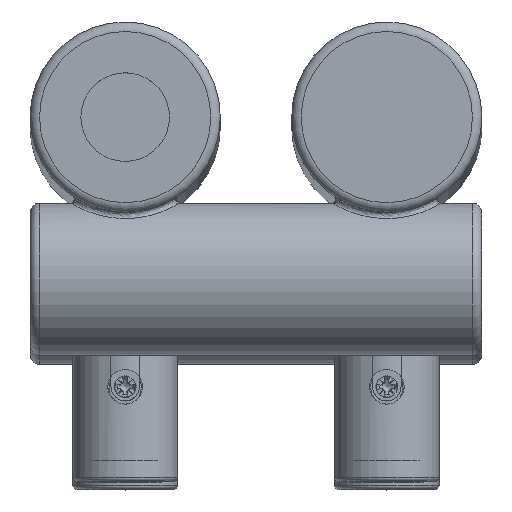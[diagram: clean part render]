
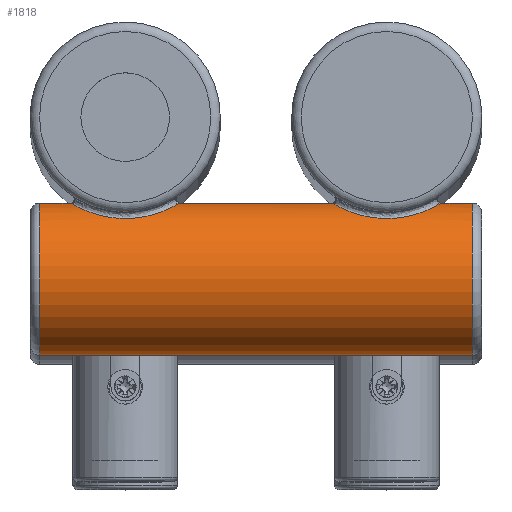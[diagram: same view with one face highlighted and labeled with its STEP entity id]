
A CAD part, top view. The second image highlights one B-rep face of the part: STEP entity #1818.
In plain terms, the highlighted cylindrical face has radius 16 mm (diameter 32 mm), a full revolution.
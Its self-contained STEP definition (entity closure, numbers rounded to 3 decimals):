
#157=FACE_BOUND('',#479,.T.);
#158=FACE_BOUND('',#480,.T.);
#177=LINE('',#3570,#249);
#249=VECTOR('',#2274,16.);
#321=CYLINDRICAL_SURFACE('',#1989,16.);
#353=FACE_OUTER_BOUND('',#478,.T.);
#478=EDGE_LOOP('',(#1288,#1289,#1290,#1291));
#479=EDGE_LOOP('',(#1292));
#480=EDGE_LOOP('',(#1293));
#614=B_SPLINE_CURVE_WITH_KNOTS('',3,(#3545,#3546,#3547,#3548,#3549,#3550,
#3551,#3552,#3553,#3554,#3555,#3556,#3557,#3558,#3559,#3560,#3561,#3562,
#3563,#3564,#3565),.UNSPECIFIED.,.T.,.F.,(4,1,1,1,1,1,1,1,1,1,1,1,1,1,1,
1,1,1,4),(0.,0.367,0.733,0.916,1.1,
1.466,1.711,1.955,2.199,2.444,
2.688,2.933,3.177,3.421,3.666,
3.91,4.399,4.765,5.132),
 .UNSPECIFIED.);
#615=B_SPLINE_CURVE_WITH_KNOTS('',3,(#3573,#3574,#3575,#3576,#3577,#3578,
#3579,#3580,#3581,#3582,#3583,#3584,#3585,#3586,#3587,#3588,#3589,#3590,
#3591,#3592,#3593),.UNSPECIFIED.,.T.,.F.,(4,1,1,1,1,1,1,1,1,1,1,1,1,1,1,
1,1,1,4),(0.,0.367,0.733,0.916,1.1,
1.466,1.711,1.955,2.199,2.444,
2.688,2.933,3.177,3.421,3.666,
3.91,4.399,4.765,5.132),
 .UNSPECIFIED.);
#660=CIRCLE('',#1990,16.);
#661=CIRCLE('',#1991,16.);
#802=VERTEX_POINT('',#3543);
#803=VERTEX_POINT('',#3567);
#804=VERTEX_POINT('',#3569);
#805=VERTEX_POINT('',#3572);
#998=EDGE_CURVE('',#802,#802,#614,.T.);
#999=EDGE_CURVE('',#803,#803,#660,.T.);
#1000=EDGE_CURVE('',#803,#804,#177,.T.);
#1001=EDGE_CURVE('',#804,#804,#661,.T.);
#1002=EDGE_CURVE('',#805,#805,#615,.T.);
#1288=ORIENTED_EDGE('',*,*,#999,.F.);
#1289=ORIENTED_EDGE('',*,*,#1000,.T.);
#1290=ORIENTED_EDGE('',*,*,#1001,.F.);
#1291=ORIENTED_EDGE('',*,*,#1000,.F.);
#1292=ORIENTED_EDGE('',*,*,#1002,.F.);
#1293=ORIENTED_EDGE('',*,*,#998,.F.);
#1818=ADVANCED_FACE('',(#353,#157,#158),#321,.T.);
#1989=AXIS2_PLACEMENT_3D('',#3566,#2270,#2271);
#1990=AXIS2_PLACEMENT_3D('',#3568,#2272,#2273);
#1991=AXIS2_PLACEMENT_3D('',#3571,#2275,#2276);
#2270=DIRECTION('center_axis',(-1.,0.,0.));
#2271=DIRECTION('ref_axis',(0.,0.,1.));
#2272=DIRECTION('center_axis',(-1.,0.,0.));
#2273=DIRECTION('ref_axis',(0.,0.,1.));
#2274=DIRECTION('',(1.,0.,0.));
#2275=DIRECTION('center_axis',(1.,0.,0.));
#2276=DIRECTION('ref_axis',(0.,0.,1.));
#3543=CARTESIAN_POINT('',(-55.,-21.257,1169.676));
#3545=CARTESIAN_POINT('Ctrl Pts',(-55.,-21.257,1169.676));
#3546=CARTESIAN_POINT('Ctrl Pts',(-53.333,-21.257,1169.676));
#3547=CARTESIAN_POINT('Ctrl Pts',(-49.992,-20.858,1169.186));
#3548=CARTESIAN_POINT('Ctrl Pts',(-46.526,-19.582,1167.138));
#3549=CARTESIAN_POINT('Ctrl Pts',(-44.675,-18.63,1164.615));
#3550=CARTESIAN_POINT('Ctrl Pts',(-43.539,-17.949,1161.659));
#3551=CARTESIAN_POINT('Ctrl Pts',(-43.538,-17.947,1158.067));
#3552=CARTESIAN_POINT('Ctrl Pts',(-45.013,-18.833,1154.662));
#3553=CARTESIAN_POINT('Ctrl Pts',(-47.203,-19.86,1152.415));
#3554=CARTESIAN_POINT('Ctrl Pts',(-50.072,-20.768,1150.978));
#3555=CARTESIAN_POINT('Ctrl Pts',(-53.318,-21.278,1150.296));
#3556=CARTESIAN_POINT('Ctrl Pts',(-56.682,-21.279,1150.296));
#3557=CARTESIAN_POINT('Ctrl Pts',(-59.929,-20.768,1150.978));
#3558=CARTESIAN_POINT('Ctrl Pts',(-62.797,-19.862,1152.415));
#3559=CARTESIAN_POINT('Ctrl Pts',(-64.989,-18.829,1154.664));
#3560=CARTESIAN_POINT('Ctrl Pts',(-66.247,-18.084,1157.578));
#3561=CARTESIAN_POINT('Ctrl Pts',(-66.602,-17.835,1161.907));
#3562=CARTESIAN_POINT('Ctrl Pts',(-64.645,-19.134,1166.468));
#3563=CARTESIAN_POINT('Ctrl Pts',(-59.999,-20.872,1169.179));
#3564=CARTESIAN_POINT('Ctrl Pts',(-56.667,-21.257,1169.676));
#3565=CARTESIAN_POINT('Ctrl Pts',(-55.,-21.257,1169.676));
#3566=CARTESIAN_POINT('Origin',(20.,-34.,1160.));
#3567=CARTESIAN_POINT('',(-73.,-34.,1144.));
#3568=CARTESIAN_POINT('Origin',(-73.,-34.,1160.));
#3569=CARTESIAN_POINT('',(18.,-34.,1144.));
#3570=CARTESIAN_POINT('',(20.,-34.,1144.));
#3571=CARTESIAN_POINT('Origin',(18.,-34.,1160.));
#3572=CARTESIAN_POINT('',(0.,-21.257,1169.676));
#3573=CARTESIAN_POINT('Ctrl Pts',(0.,-21.257,
1169.676));
#3574=CARTESIAN_POINT('Ctrl Pts',(1.667,-21.257,1169.676));
#3575=CARTESIAN_POINT('Ctrl Pts',(5.008,-20.858,1169.186));
#3576=CARTESIAN_POINT('Ctrl Pts',(8.474,-19.582,1167.138));
#3577=CARTESIAN_POINT('Ctrl Pts',(10.325,-18.63,1164.615));
#3578=CARTESIAN_POINT('Ctrl Pts',(11.461,-17.949,1161.659));
#3579=CARTESIAN_POINT('Ctrl Pts',(11.462,-17.947,1158.066));
#3580=CARTESIAN_POINT('Ctrl Pts',(9.987,-18.833,1154.662));
#3581=CARTESIAN_POINT('Ctrl Pts',(7.797,-19.86,1152.415));
#3582=CARTESIAN_POINT('Ctrl Pts',(4.928,-20.768,1150.978));
#3583=CARTESIAN_POINT('Ctrl Pts',(1.682,-21.278,1150.296));
#3584=CARTESIAN_POINT('Ctrl Pts',(-1.682,-21.279,1150.296));
#3585=CARTESIAN_POINT('Ctrl Pts',(-4.929,-20.768,1150.978));
#3586=CARTESIAN_POINT('Ctrl Pts',(-7.797,-19.862,1152.415));
#3587=CARTESIAN_POINT('Ctrl Pts',(-9.989,-18.829,1154.664));
#3588=CARTESIAN_POINT('Ctrl Pts',(-11.247,-18.084,1157.578));
#3589=CARTESIAN_POINT('Ctrl Pts',(-11.602,-17.835,1161.907));
#3590=CARTESIAN_POINT('Ctrl Pts',(-9.645,-19.134,1166.468));
#3591=CARTESIAN_POINT('Ctrl Pts',(-4.999,-20.872,1169.179));
#3592=CARTESIAN_POINT('Ctrl Pts',(-1.667,-21.257,1169.676));
#3593=CARTESIAN_POINT('Ctrl Pts',(0.,-21.257,
1169.676));
